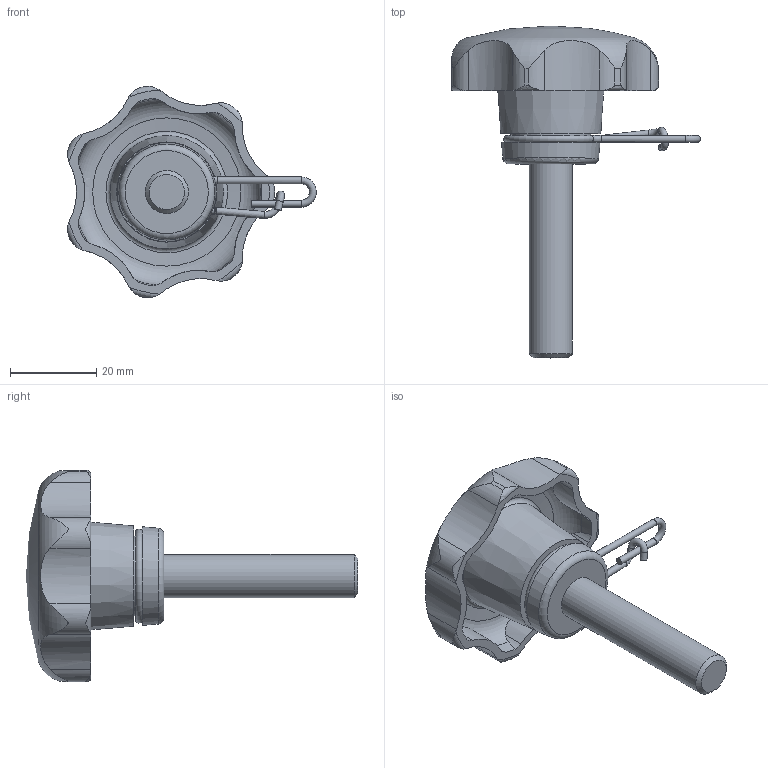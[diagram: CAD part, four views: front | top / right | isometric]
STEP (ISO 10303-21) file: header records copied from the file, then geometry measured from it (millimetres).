
FILE_DESCRIPTION( ( 'STEP AP203' ), '1' );
FILE_NAME( 'C:/Temp/Ganter_Step_05_03_2020/data/2_2/gn_6336_13/gn_6336_13_2/Star knob GN 6336.13-50-M10-45-A.stp', '2020-03-05T12:11:17', ( 'License CC BY-ND 4.0' ), ( 'CADENAS' ), ' ', 'PARTsolutions', ' ' );
FILE_SCHEMA( ( 'CONFIG_CONTROL_DESIGN' ) );
Length unit declared in the file: millimetre
Products named in the file (1): _Star knob GN 6336.13-50-M10-45-A
Bounding box: 57.7 x 77 x 49 mm (x, y, z)
Volume: 26110.5 mm3; surface area: 9749.4 mm2
Topology: 1 solids, 1 shells, 93 faces, 249 edges, 161 vertices
Faces by surface type: cylinder 53, torus 18, cone 11, plane 10, sphere 1
Full cylindrical faces by diameter (mm): 1.6 x6, 10 x1, 18.5 x1
Entity records: 3564 total; most frequent: CARTESIAN_POINT 1365, DIRECTION 444, ORIENTED_EDGE 438, EDGE_CURVE 219, AXIS2_PLACEMENT_3D 200, VERTEX_POINT 157, EDGE_LOOP 119, FACE_OUTER_BOUND 111
